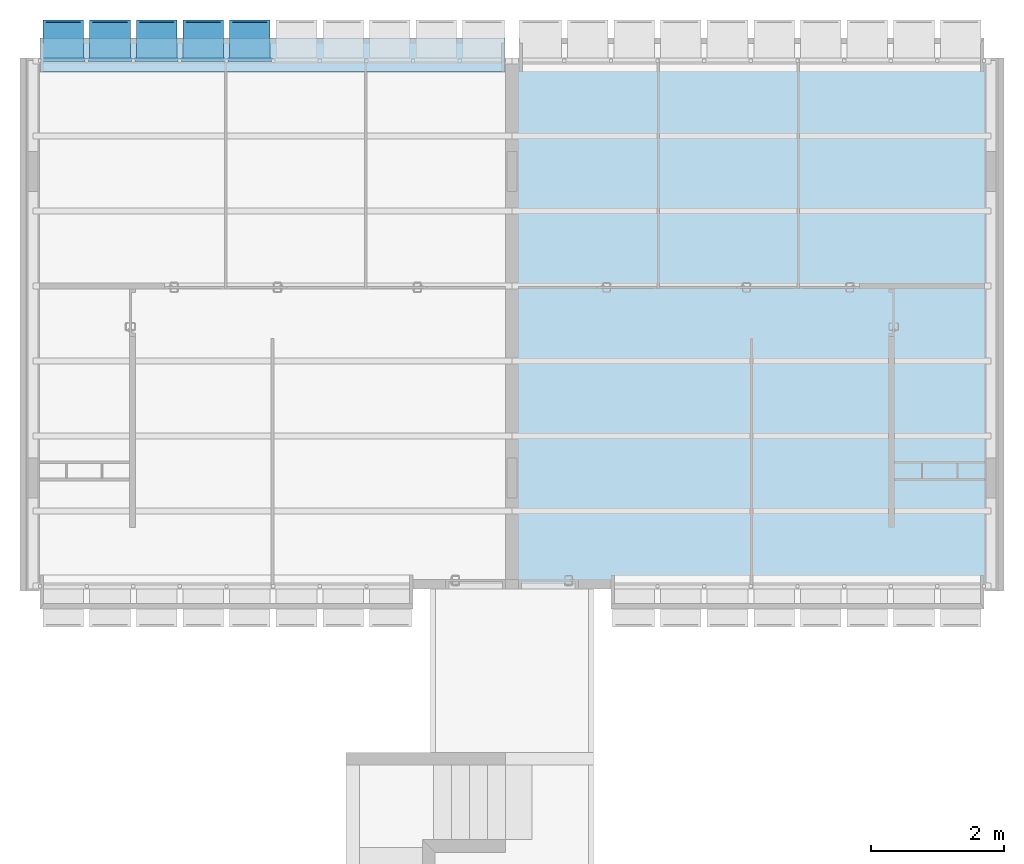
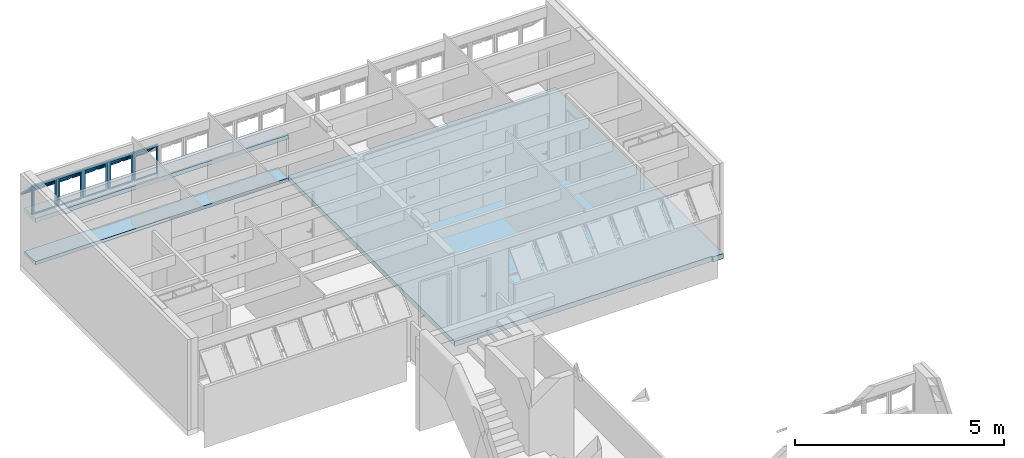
# One storey, part 14 of 41: 5 plates, 3 slabs, 1 element without a shape of its own.
"""IFC4 building model written with IfcOpenShell, lengths in millimetres."""

from ifc_helpers import new_model, entity, si_unit, converted_unit, derived_unit, direction, frame, origin_with_axes, place, context, subcontext, project, spatial, line, indexed_curve, outline, extrude, polygons, source, transform, mapped, material, layer, layer_set, layer_usage, constituent, constituent_set, type_object, element, aggregate, save


model = new_model("IFC4")

# Units and contexts
model_context = context("Model", 3, precision=0.01, world=origin_with_axes(), true_north=direction((0.0, 1.0)))
body_context = subcontext(model_context, "Body", "Model", "MODEL_VIEW")
ifc_project = project(units=[si_unit("LENGTHUNIT", "METRE", prefix="MILLI"), si_unit("AREAUNIT", "SQUARE_METRE"), si_unit("VOLUMEUNIT", "CUBIC_METRE"), converted_unit("PLANEANGLEUNIT", "DEGREE", entity("IfcPlaneAngleMeasure", 0.0174532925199), si_unit("PLANEANGLEUNIT", "RADIAN"), dimensions=[0, 0, 0, 0, 0, 0, 0]), converted_unit("TIMEUNIT", "Year", entity("IfcTimeMeasure", 31556926.0), si_unit("TIMEUNIT", "SECOND"), dimensions=[0, 0, 1, 0, 0, 0, 0]), si_unit("MASSUNIT", "GRAM", prefix="KILO"), si_unit("THERMODYNAMICTEMPERATUREUNIT", "DEGREE_CELSIUS"), si_unit("LUMINOUSINTENSITYUNIT", "LUMEN"), si_unit("ENERGYUNIT", "JOULE", prefix="MEGA"), derived_unit("THERMALCONDUCTANCEUNIT", [(si_unit("POWERUNIT", "WATT"), 1), (si_unit("LENGTHUNIT", "METRE"), -1), (si_unit("THERMODYNAMICTEMPERATUREUNIT", "KELVIN"), -1)]), derived_unit("SPECIFICHEATCAPACITYUNIT", [(si_unit("ENERGYUNIT", "JOULE"), 1), (si_unit("MASSUNIT", "GRAM", prefix="KILO"), -1), (si_unit("THERMODYNAMICTEMPERATUREUNIT", "KELVIN"), -1)]), derived_unit("MASSDENSITYUNIT", [(si_unit("MASSUNIT", "GRAM", prefix="KILO"), 1), (si_unit("VOLUMEUNIT", "CUBIC_METRE"), -1)])], contexts=[model_context])

# Site, building, storey
site_placement = place(None, origin_with_axes())
site = spatial("IfcSite", under=ifc_project, at=site_placement, Name="Local", CompositionType="ELEMENT")
building_placement = place(site_placement, origin_with_axes())
building = spatial("IfcBuilding", under=site, at=building_placement, Name="Construção", CompositionType="ELEMENT")
storey_placement = place(building_placement, frame((0.0, 0.0, 2650.0), z_axis=(0.0, 0.0, 1.0), x_axis=(1.0, 0.0, 0.0)))
storey = spatial("IfcBuildingStorey", under=building, at=storey_placement, Name="Segundo Pavimento", CompositionType="ELEMENT", Elevation=2650.0)

# Slabs
ifc_material_1 = material(Name="Concreto Armado Moldado in Loco - Estrutural")
ifc_layer_1 = layer(ifc_material_1, 150.0, ventilated="UNKNOWN", Name="Concreto Armado Moldado in Loco - Estrutural")
ifc_layer_set_1 = layer_set([ifc_layer_1], Name="Concreto Armado Moldado in Loco - Estrutural 150")
ifc_layer_usage_1 = layer_usage(ifc_layer_set_1, "AXIS3", "NEGATIVE", 150.0)
slab_type_1 = type_object("IfcSlabType", Name="Concreto Armado Moldado in Loco - Estrutural 150", PredefinedType="FLOOR")
slab_1_placement = place(storey_placement, frame((14770.0, 25860.0, 0.0), z_axis=(0.0, 0.0, 1.0), x_axis=(1.0, 0.0, 0.0)))
element("IfcSlab", 1, at=slab_1_placement, inside=storey, type_object=slab_type_1, material=ifc_layer_usage_1, Name="APTO8-LAJE-000", PredefinedType="FLOOR", context=body_context, shape_type="SweptSolid", body=[
    extrude(outline(indexed_curve([(0.0, 0.0), (-299.999978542, 0.0), (-7385.0, 0.0), (-7385.0, -7964.99999866), (-6160.00008404, -7964.99999866), (-5900.0, -7965.0), (-290.0, -7965.0), (-289.999999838, -8000.00000006), (0.0, -7999.99999872)], segments=[line(1, 2, 3, 4, 5, 6, 7, 8, 9, 1)])), frame((0.0, 0.0, -150.0), z_axis=(0.0, 0.0, 1.0), x_axis=(1.0, 0.0, 0.0)), (0.0, 0.0, 1.0), 150.0),
])
ifc_layer_2 = layer(ifc_material_1, 120.0, ventilated="UNKNOWN", Name="Concreto Armado Moldado in Loco - Estrutural")
ifc_layer_set_2 = layer_set([ifc_layer_2], Name="Concreto Armado Moldado in Loco - Estrutural 120")
ifc_layer_usage_2 = layer_usage(ifc_layer_set_2, "AXIS3", "NEGATIVE", 120.0)
slab_type_2 = type_object("IfcSlabType", Name="Concreto Armado Moldado in Loco - Estrutural 120", PredefinedType="FLOOR")
slab_2_placement = place(storey_placement, frame((300.0, 26160.0, 1355.0), z_axis=(0.0, 0.0, 1.0), x_axis=(1.0, 0.0, 0.0)))
element("IfcSlab", 2, at=slab_2_placement, inside=storey, type_object=slab_type_2, material=ifc_layer_usage_2, Name="APTO7-LAJE-002", PredefinedType="FLOOR", context=body_context, shape_type="SweptSolid", body=[
    extrude(outline(indexed_curve([(0.0, 0.0), (0.0, -510.0), (6980.0, -510.0), (6980.0, 0.0)], segments=[line(1, 2, 3, 4, 1)])), frame((0.0, 0.0, -120.0), z_axis=(0.0, 0.0, 1.0), x_axis=(1.0, 0.0, 0.0)), (0.0, 0.0, 1.0), 120.0),
])
ifc_layer_3 = layer(ifc_material_1, 100.0, ventilated="UNKNOWN", Name="Concreto Armado Moldado in Loco - Estrutural")
ifc_layer_set_3 = layer_set([ifc_layer_3], Name="Concreto Armado Moldado in Loco - Estrutural 100")
ifc_layer_usage_3 = layer_usage(ifc_layer_set_3, "AXIS3", "NEGATIVE", 100.0)
slab_type_3 = type_object("IfcSlabType", Name="Concreto Armado Moldado in Loco - Estrutural 100", PredefinedType="FLOOR")
slab_3_placement = place(storey_placement, frame((300.0, 26160.0, 100.0), z_axis=(0.0, 0.0, 1.0), x_axis=(1.0, 0.0, 0.0)))
element("IfcSlab", 3, at=slab_3_placement, inside=storey, type_object=slab_type_3, material=ifc_layer_usage_3, Name="APTO7-LAJE-001", PredefinedType="FLOOR", context=body_context, shape_type="SweptSolid", body=[
    extrude(outline(indexed_curve([(0.0, 0.0), (0.0, -510.0), (6980.0, -510.0), (6980.0, 0.0)], segments=[line(1, 2, 3, 4, 1)])), frame((0.0, 0.0, -100.0), z_axis=(0.0, 0.0, 1.0), x_axis=(1.0, 0.0, 0.0)), (0.0, 0.0, 1.0), 100.0),
])

# Window, plates
window_type = type_object("IfcWindowType", Name="Tipo de Parede Cortina", PartitioningType="NOTDEFINED", PredefinedType="NOTDEFINED")
window_placement = place(storey_placement, frame((6250.0, 25844.9790225, 1355.02054151), z_axis=(0.0, 0.0, 1.0), x_axis=(1.0, 0.0, 0.0)))
window = element("IfcWindow", 4, at=window_placement, inside=storey, type_object=window_type, Name="APTO7-JANELA-001", PredefinedType="NOTDEFINED")
ifc_material_2 = material(Name="Alumínio")
ifc_constituent_1 = constituent(ifc_material_2, Name="Alumínio")
ifc_material_3 = material(Name="Vidro")
ifc_constituent_2 = constituent(ifc_material_3, Name="Vidro")
ifc_constituent_set_1 = constituent_set(constituents=[ifc_constituent_1, ifc_constituent_2])
plate_type = type_object("IfcPlateType", Name="Painel Principal 690 x 845 x 20", PredefinedType="CURTAIN_PANEL")
shared_shape_1 = source(origin_with_axes(), body_context, "Body", "Tessellation", [
    polygons([(-25.0000036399, 0.0, -40.0), (-25.0000036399, 0.0, -35.0), (-674.999997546, 0.0, -35.0), (-674.999997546, 0.0, -40.0), (-70.0000036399, 45.0, -40.0), (-70.0000036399, 45.0, -35.0), (-629.999997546, 45.0, -35.0), (-629.999997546, 45.0, -40.0)], [[[1, 2, 3, 4]], [[5, 6, 2, 1]], [[2, 6, 7, 3]], [[4, 3, 7, 8]], [[1, 4, 8, 5]], [[8, 7, 6, 5]]], closed=True),
    polygons([(-674.999997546, 0.0, -40.0), (-674.999997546, 0.0, -35.0), (-674.999997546, 844.999891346, -35.0), (-674.999997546, 844.999891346, -40.0), (-629.999997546, 45.0, -40.0), (-629.999997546, 45.0, -35.0), (-629.999997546, 799.999891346, -35.0), (-629.999997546, 799.999891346, -40.0)], [[[1, 2, 3, 4]], [[5, 6, 2, 1]], [[2, 6, 7, 3]], [[4, 3, 7, 8]], [[1, 4, 8, 5]], [[8, 7, 6, 5]]], closed=True),
    polygons([(-25.0000036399, 844.999891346, -40.0), (-25.0000036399, 844.999891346, -35.0), (-70.0000036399, 799.999891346, -35.0), (-70.0000036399, 799.999891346, -40.0), (-674.999997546, 844.999891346, -40.0), (-674.999997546, 844.999891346, -35.0), (-629.999997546, 799.999891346, -35.0), (-629.999997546, 799.999891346, -40.0)], [[[1, 2, 3, 4]], [[5, 6, 2, 1]], [[2, 6, 7, 3]], [[4, 3, 7, 8]], [[1, 4, 8, 5]], [[8, 7, 6, 5]]], closed=True),
    polygons([(-25.0000036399, 0.0, -40.0), (-25.0000036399, 0.0, -35.0), (-70.0000036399, 45.0, -35.0), (-70.0000036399, 45.0, -40.0), (-25.0000036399, 844.999891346, -40.0), (-25.0000036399, 844.999891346, -35.0), (-70.0000036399, 799.999891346, -35.0), (-70.0000036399, 799.999891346, -40.0)], [[[1, 2, 3, 4]], [[5, 6, 2, 1]], [[2, 6, 7, 3]], [[4, 3, 7, 8]], [[1, 4, 8, 5]], [[8, 7, 6, 5]]], closed=True),
    polygons([(-25.0000036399, 0.0, -35.0), (-25.0000036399, 0.0, 15.0), (-674.999997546, 0.0, 15.0), (-674.999997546, 0.0, -35.0), (-45.0000036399, 20.0, -35.0), (-45.0000036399, 20.0, 15.0), (-654.999997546, 20.0, 15.0), (-654.999997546, 20.0, -35.0)], [[[1, 2, 3, 4]], [[5, 6, 2, 1]], [[2, 6, 7, 3]], [[4, 3, 7, 8]], [[1, 4, 8, 5]], [[8, 7, 6, 5]]], closed=True),
    polygons([(-674.999997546, 0.0, -35.0), (-674.999997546, 0.0, 15.0), (-674.999997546, 844.999891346, 15.0), (-674.999997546, 844.999891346, -35.0), (-654.999997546, 20.0, -35.0), (-654.999997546, 20.0, 15.0), (-654.999997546, 824.999891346, 15.0), (-654.999997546, 824.999891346, -35.0)], [[[1, 2, 3, 4]], [[5, 6, 2, 1]], [[2, 6, 7, 3]], [[4, 3, 7, 8]], [[1, 4, 8, 5]], [[8, 7, 6, 5]]], closed=True),
    polygons([(-25.0000036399, 844.999891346, -35.0), (-25.0000036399, 844.999891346, 15.0), (-45.0000036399, 824.999891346, 15.0), (-45.0000036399, 824.999891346, -35.0), (-674.999997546, 844.999891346, -35.0), (-674.999997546, 844.999891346, 15.0), (-654.999997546, 824.999891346, 15.0), (-654.999997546, 824.999891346, -35.0)], [[[1, 2, 3, 4]], [[5, 6, 2, 1]], [[2, 6, 7, 3]], [[4, 3, 7, 8]], [[1, 4, 8, 5]], [[8, 7, 6, 5]]], closed=True),
    polygons([(-25.0000036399, 0.0, -35.0), (-25.0000036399, 0.0, 15.0), (-45.0000036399, 20.0, 15.0), (-45.0000036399, 20.0, -35.0), (-25.0000036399, 844.999891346, -35.0), (-25.0000036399, 844.999891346, 15.0), (-45.0000036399, 824.999891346, 15.0), (-45.0000036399, 824.999891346, -35.0)], [[[1, 2, 3, 4]], [[5, 6, 2, 1]], [[2, 6, 7, 3]], [[4, 3, 7, 8]], [[1, 4, 8, 5]], [[8, 7, 6, 5]]], closed=True),
    polygons([(-694.999995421, 0.0, -10.0), (-694.999995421, 0.0, 10.0), (-694.999995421, 844.999891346, 10.0), (-694.999995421, 844.999891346, -10.0), (-674.999997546, 0.0, -10.0), (-674.999997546, 0.0, 10.0), (-674.999997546, 844.999891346, 10.0), (-674.999997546, 844.999891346, -10.0)], [[[1, 2, 3, 4]], [[5, 6, 2, 1]], [[2, 6, 7, 3]], [[4, 3, 7, 8]], [[1, 4, 8, 5]], [[8, 7, 6, 5]]], closed=True),
    polygons([(-5.00000576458, 844.999891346, -10.0), (-5.00000576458, 844.999891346, 10.0), (-5.00000576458, 0.0, 10.0), (-5.00000576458, 0.0, -10.0), (-25.0000036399, 844.999891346, -10.0), (-25.0000036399, 844.999891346, 10.0), (-25.0000036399, 0.0, 10.0), (-25.0000036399, 0.0, -10.0)], [[[1, 2, 3, 4]], [[5, 6, 2, 1]], [[2, 6, 7, 3]], [[4, 3, 7, 8]], [[1, 4, 8, 5]], [[8, 7, 6, 5]]], closed=True),
    polygons([(-90.0000036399, 252.243475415, 517.045737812), (-90.0000036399, 291.13434838, 555.936610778), (-90.0000036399, 796.715620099, 50.3553390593), (-90.0000036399, 757.824747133, 11.4644660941), (-45.0000036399, 220.423670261, 548.865542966), (-45.0000036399, 259.314543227, 587.756415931), (-45.0000036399, 828.535425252, 18.5355339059), (-45.0000036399, 789.644552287, -20.3553390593)], [[[1, 2, 3, 4]], [[5, 6, 2, 1]], [[2, 6, 7, 3]], [[4, 3, 7, 8]], [[1, 4, 8, 5]], [[8, 7, 6, 5]]], closed=True),
    polygons([(-654.999997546, 220.423670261, 548.865542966), (-654.999997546, 259.314543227, 587.756415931), (-654.999997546, 828.535425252, 18.5355339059), (-654.999997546, 789.644552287, -20.3553390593), (-609.999997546, 252.243475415, 517.045737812), (-609.999997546, 291.13434838, 555.936610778), (-609.999997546, 796.715620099, 50.3553390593), (-609.999997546, 757.824747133, 11.4644660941)], [[[1, 2, 3, 4]], [[5, 6, 2, 1]], [[2, 6, 7, 3]], [[4, 3, 7, 8]], [[1, 4, 8, 5]], [[8, 7, 6, 5]]], closed=True),
    polygons([(-654.999997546, 220.423670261, 548.865542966), (-654.999997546, 259.314543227, 587.756415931), (-609.999997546, 291.13434838, 555.936610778), (-609.999997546, 252.243475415, 517.045737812), (-45.0000036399, 220.423670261, 548.865542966), (-45.0000036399, 259.314543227, 587.756415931), (-90.0000036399, 291.13434838, 555.936610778), (-90.0000036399, 252.243475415, 517.045737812)], [[[1, 2, 3, 4]], [[5, 6, 2, 1]], [[2, 6, 7, 3]], [[4, 3, 7, 8]], [[1, 4, 8, 5]], [[8, 7, 6, 5]]], closed=True),
    polygons([(-45.0000036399, 789.644552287, -20.3553390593), (-45.0000036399, 828.535425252, 18.5355339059), (-90.0000036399, 796.715620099, 50.3553390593), (-90.0000036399, 757.824747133, 11.4644660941), (-654.999997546, 789.644552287, -20.3553390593), (-654.999997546, 828.535425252, 18.5355339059), (-609.999997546, 796.715620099, 50.3553390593), (-609.999997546, 757.824747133, 11.4644660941)], [[[1, 2, 3, 4]], [[5, 6, 2, 1]], [[2, 6, 7, 3]], [[4, 3, 7, 8]], [[1, 4, 8, 5]], [[8, 7, 6, 5]]], closed=True),
    polygons([(-90.0000036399, 272.749572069, 537.551834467), (-90.0000036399, 284.063280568, 548.865542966), (-609.999997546, 284.063280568, 548.865542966), (-609.999997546, 272.749572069, 537.551834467), (-90.0000036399, 778.330843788, 31.9705627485), (-90.0000036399, 789.644552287, 43.2842712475), (-609.999997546, 789.644552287, 43.2842712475), (-609.999997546, 778.330843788, 31.9705627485)], [[[1, 2, 3, 4]], [[5, 6, 2, 1]], [[2, 6, 7, 3]], [[4, 3, 7, 8]], [[1, 4, 8, 5]], [[8, 7, 6, 5]]], closed=True),
])
plate_1_placement = place(window_placement, frame((-3500.0, 0.0, 422.499945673), z_axis=(0.0, 0.0, 1.0), x_axis=(-1.0, 0.0, 0.0)))
plate_1 = element("IfcPlate", 5, at=plate_1_placement, type_object=plate_type, material=ifc_constituent_set_1, Name="APTO7-Painel-Prin-013", PredefinedType="CURTAIN_PANEL", context=body_context, shape_type="MappedRepresentation", body=[
    mapped(shared_shape_1, transform((350.0, 0.0, -422.499945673), x_axis=(1.0, 0.0, 0.0), y_axis=(0.0, 0.0, 1.0), z_axis=(0.0, -1.0, 0.0))),
])
ifc_constituent_3 = constituent(ifc_material_2, Name="Alumínio")
ifc_constituent_4 = constituent(ifc_material_3, Name="Vidro")
ifc_constituent_set_2 = constituent_set(constituents=[ifc_constituent_3, ifc_constituent_4])
shared_shape_2 = source(origin_with_axes(), body_context, "Body", "Tessellation", [
    polygons([(-25.0000036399, 0.0, -40.0), (-25.0000036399, 0.0, -35.0), (-674.999997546, 0.0, -35.0), (-674.999997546, 0.0, -40.0), (-70.0000036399, 45.0, -40.0), (-70.0000036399, 45.0, -35.0), (-629.999997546, 45.0, -35.0), (-629.999997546, 45.0, -40.0)], [[[1, 2, 3, 4]], [[5, 6, 2, 1]], [[2, 6, 7, 3]], [[4, 3, 7, 8]], [[1, 4, 8, 5]], [[8, 7, 6, 5]]], closed=True),
    polygons([(-674.999997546, 0.0, -40.0), (-674.999997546, 0.0, -35.0), (-674.999997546, 844.999891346, -35.0), (-674.999997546, 844.999891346, -40.0), (-629.999997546, 45.0, -40.0), (-629.999997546, 45.0, -35.0), (-629.999997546, 799.999891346, -35.0), (-629.999997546, 799.999891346, -40.0)], [[[1, 2, 3, 4]], [[5, 6, 2, 1]], [[2, 6, 7, 3]], [[4, 3, 7, 8]], [[1, 4, 8, 5]], [[8, 7, 6, 5]]], closed=True),
    polygons([(-25.0000036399, 844.999891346, -40.0), (-25.0000036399, 844.999891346, -35.0), (-70.0000036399, 799.999891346, -35.0), (-70.0000036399, 799.999891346, -40.0), (-674.999997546, 844.999891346, -40.0), (-674.999997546, 844.999891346, -35.0), (-629.999997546, 799.999891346, -35.0), (-629.999997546, 799.999891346, -40.0)], [[[1, 2, 3, 4]], [[5, 6, 2, 1]], [[2, 6, 7, 3]], [[4, 3, 7, 8]], [[1, 4, 8, 5]], [[8, 7, 6, 5]]], closed=True),
    polygons([(-25.0000036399, 0.0, -40.0), (-25.0000036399, 0.0, -35.0), (-70.0000036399, 45.0, -35.0), (-70.0000036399, 45.0, -40.0), (-25.0000036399, 844.999891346, -40.0), (-25.0000036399, 844.999891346, -35.0), (-70.0000036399, 799.999891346, -35.0), (-70.0000036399, 799.999891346, -40.0)], [[[1, 2, 3, 4]], [[5, 6, 2, 1]], [[2, 6, 7, 3]], [[4, 3, 7, 8]], [[1, 4, 8, 5]], [[8, 7, 6, 5]]], closed=True),
    polygons([(-25.0000036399, 0.0, -35.0), (-25.0000036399, 0.0, 15.0), (-674.999997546, 0.0, 15.0), (-674.999997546, 0.0, -35.0), (-45.0000036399, 20.0, -35.0), (-45.0000036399, 20.0, 15.0), (-654.999997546, 20.0, 15.0), (-654.999997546, 20.0, -35.0)], [[[1, 2, 3, 4]], [[5, 6, 2, 1]], [[2, 6, 7, 3]], [[4, 3, 7, 8]], [[1, 4, 8, 5]], [[8, 7, 6, 5]]], closed=True),
    polygons([(-674.999997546, 0.0, -35.0), (-674.999997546, 0.0, 15.0), (-674.999997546, 844.999891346, 15.0), (-674.999997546, 844.999891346, -35.0), (-654.999997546, 20.0, -35.0), (-654.999997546, 20.0, 15.0), (-654.999997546, 824.999891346, 15.0), (-654.999997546, 824.999891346, -35.0)], [[[1, 2, 3, 4]], [[5, 6, 2, 1]], [[2, 6, 7, 3]], [[4, 3, 7, 8]], [[1, 4, 8, 5]], [[8, 7, 6, 5]]], closed=True),
    polygons([(-25.0000036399, 844.999891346, -35.0), (-25.0000036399, 844.999891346, 15.0), (-45.0000036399, 824.999891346, 15.0), (-45.0000036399, 824.999891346, -35.0), (-674.999997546, 844.999891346, -35.0), (-674.999997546, 844.999891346, 15.0), (-654.999997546, 824.999891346, 15.0), (-654.999997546, 824.999891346, -35.0)], [[[1, 2, 3, 4]], [[5, 6, 2, 1]], [[2, 6, 7, 3]], [[4, 3, 7, 8]], [[1, 4, 8, 5]], [[8, 7, 6, 5]]], closed=True),
    polygons([(-25.0000036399, 0.0, -35.0), (-25.0000036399, 0.0, 15.0), (-45.0000036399, 20.0, 15.0), (-45.0000036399, 20.0, -35.0), (-25.0000036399, 844.999891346, -35.0), (-25.0000036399, 844.999891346, 15.0), (-45.0000036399, 824.999891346, 15.0), (-45.0000036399, 824.999891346, -35.0)], [[[1, 2, 3, 4]], [[5, 6, 2, 1]], [[2, 6, 7, 3]], [[4, 3, 7, 8]], [[1, 4, 8, 5]], [[8, 7, 6, 5]]], closed=True),
    polygons([(-694.999995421, 0.0, -10.0), (-694.999995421, 0.0, 10.0), (-694.999995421, 844.999891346, 10.0), (-694.999995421, 844.999891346, -10.0), (-674.999997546, 0.0, -10.0), (-674.999997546, 0.0, 10.0), (-674.999997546, 844.999891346, 10.0), (-674.999997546, 844.999891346, -10.0)], [[[1, 2, 3, 4]], [[5, 6, 2, 1]], [[2, 6, 7, 3]], [[4, 3, 7, 8]], [[1, 4, 8, 5]], [[8, 7, 6, 5]]], closed=True),
    polygons([(-5.00000576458, 844.999891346, -10.0), (-5.00000576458, 844.999891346, 10.0), (-5.00000576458, 0.0, 10.0), (-5.00000576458, 0.0, -10.0), (-25.0000036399, 844.999891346, -10.0), (-25.0000036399, 844.999891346, 10.0), (-25.0000036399, 0.0, 10.0), (-25.0000036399, 0.0, -10.0)], [[[1, 2, 3, 4]], [[5, 6, 2, 1]], [[2, 6, 7, 3]], [[4, 3, 7, 8]], [[1, 4, 8, 5]], [[8, 7, 6, 5]]], closed=True),
    polygons([(-90.0000036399, 252.243475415, 517.045737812), (-90.0000036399, 291.13434838, 555.936610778), (-90.0000036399, 796.715620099, 50.3553390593), (-90.0000036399, 757.824747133, 11.4644660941), (-45.0000036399, 220.423670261, 548.865542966), (-45.0000036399, 259.314543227, 587.756415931), (-45.0000036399, 828.535425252, 18.5355339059), (-45.0000036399, 789.644552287, -20.3553390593)], [[[1, 2, 3, 4]], [[5, 6, 2, 1]], [[2, 6, 7, 3]], [[4, 3, 7, 8]], [[1, 4, 8, 5]], [[8, 7, 6, 5]]], closed=True),
    polygons([(-654.999997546, 220.423670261, 548.865542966), (-654.999997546, 259.314543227, 587.756415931), (-654.999997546, 828.535425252, 18.5355339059), (-654.999997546, 789.644552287, -20.3553390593), (-609.999997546, 252.243475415, 517.045737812), (-609.999997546, 291.13434838, 555.936610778), (-609.999997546, 796.715620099, 50.3553390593), (-609.999997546, 757.824747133, 11.4644660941)], [[[1, 2, 3, 4]], [[5, 6, 2, 1]], [[2, 6, 7, 3]], [[4, 3, 7, 8]], [[1, 4, 8, 5]], [[8, 7, 6, 5]]], closed=True),
    polygons([(-654.999997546, 220.423670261, 548.865542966), (-654.999997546, 259.314543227, 587.756415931), (-609.999997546, 291.13434838, 555.936610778), (-609.999997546, 252.243475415, 517.045737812), (-45.0000036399, 220.423670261, 548.865542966), (-45.0000036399, 259.314543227, 587.756415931), (-90.0000036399, 291.13434838, 555.936610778), (-90.0000036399, 252.243475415, 517.045737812)], [[[1, 2, 3, 4]], [[5, 6, 2, 1]], [[2, 6, 7, 3]], [[4, 3, 7, 8]], [[1, 4, 8, 5]], [[8, 7, 6, 5]]], closed=True),
    polygons([(-45.0000036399, 789.644552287, -20.3553390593), (-45.0000036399, 828.535425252, 18.5355339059), (-90.0000036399, 796.715620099, 50.3553390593), (-90.0000036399, 757.824747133, 11.4644660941), (-654.999997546, 789.644552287, -20.3553390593), (-654.999997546, 828.535425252, 18.5355339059), (-609.999997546, 796.715620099, 50.3553390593), (-609.999997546, 757.824747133, 11.4644660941)], [[[1, 2, 3, 4]], [[5, 6, 2, 1]], [[2, 6, 7, 3]], [[4, 3, 7, 8]], [[1, 4, 8, 5]], [[8, 7, 6, 5]]], closed=True),
    polygons([(-90.0000036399, 272.749572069, 537.551834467), (-90.0000036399, 284.063280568, 548.865542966), (-609.999997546, 284.063280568, 548.865542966), (-609.999997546, 272.749572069, 537.551834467), (-90.0000036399, 778.330843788, 31.9705627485), (-90.0000036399, 789.644552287, 43.2842712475), (-609.999997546, 789.644552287, 43.2842712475), (-609.999997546, 778.330843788, 31.9705627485)], [[[1, 2, 3, 4]], [[5, 6, 2, 1]], [[2, 6, 7, 3]], [[4, 3, 7, 8]], [[1, 4, 8, 5]], [[8, 7, 6, 5]]], closed=True),
])
plate_2_placement = place(window_placement, frame((-5600.0, 0.0, 422.499945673), z_axis=(0.0, 0.0, 1.0), x_axis=(-1.0, 0.0, 0.0)))
plate_2 = element("IfcPlate", 6, at=plate_2_placement, type_object=plate_type, material=ifc_constituent_set_2, Name="APTO7-Painel-Prin-013", PredefinedType="CURTAIN_PANEL", context=body_context, shape_type="MappedRepresentation", body=[
    mapped(shared_shape_2, transform((350.0, 0.0, -422.499945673), x_axis=(1.0, 0.0, 0.0), y_axis=(0.0, 0.0, 1.0), z_axis=(0.0, -1.0, 0.0))),
])
ifc_constituent_5 = constituent(ifc_material_2, Name="Alumínio")
ifc_constituent_6 = constituent(ifc_material_3, Name="Vidro")
ifc_constituent_set_3 = constituent_set(constituents=[ifc_constituent_5, ifc_constituent_6])
plate_3_placement = place(window_placement, frame((-4900.0, 0.0, 422.499945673), z_axis=(0.0, 0.0, 1.0), x_axis=(-1.0, 0.0, 0.0)))
plate_3 = element("IfcPlate", 7, at=plate_3_placement, type_object=plate_type, material=ifc_constituent_set_3, Name="APTO7-Painel-Prin-013", PredefinedType="CURTAIN_PANEL", context=body_context, shape_type="MappedRepresentation", body=[
    mapped(shared_shape_2, transform((350.0, 0.0, -422.499945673), x_axis=(1.0, 0.0, 0.0), y_axis=(0.0, 0.0, 1.0), z_axis=(0.0, -1.0, 0.0))),
])
ifc_constituent_7 = constituent(ifc_material_2, Name="Alumínio")
ifc_constituent_8 = constituent(ifc_material_3, Name="Vidro")
ifc_constituent_set_4 = constituent_set(constituents=[ifc_constituent_7, ifc_constituent_8])
shared_shape_3 = source(origin_with_axes(), body_context, "Body", "Tessellation", [
    polygons([(-25.0000036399, 0.0, -40.0), (-25.0000036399, 0.0, -35.0), (-674.999997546, 0.0, -35.0), (-674.999997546, 0.0, -40.0), (-70.0000036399, 45.0, -40.0), (-70.0000036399, 45.0, -35.0), (-629.999997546, 45.0, -35.0), (-629.999997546, 45.0, -40.0)], [[[1, 2, 3, 4]], [[5, 6, 2, 1]], [[2, 6, 7, 3]], [[4, 3, 7, 8]], [[1, 4, 8, 5]], [[8, 7, 6, 5]]], closed=True),
    polygons([(-674.999997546, 0.0, -40.0), (-674.999997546, 0.0, -35.0), (-674.999997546, 844.999891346, -35.0), (-674.999997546, 844.999891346, -40.0), (-629.999997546, 45.0, -40.0), (-629.999997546, 45.0, -35.0), (-629.999997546, 799.999891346, -35.0), (-629.999997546, 799.999891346, -40.0)], [[[1, 2, 3, 4]], [[5, 6, 2, 1]], [[2, 6, 7, 3]], [[4, 3, 7, 8]], [[1, 4, 8, 5]], [[8, 7, 6, 5]]], closed=True),
    polygons([(-25.0000036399, 844.999891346, -40.0), (-25.0000036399, 844.999891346, -35.0), (-70.0000036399, 799.999891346, -35.0), (-70.0000036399, 799.999891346, -40.0), (-674.999997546, 844.999891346, -40.0), (-674.999997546, 844.999891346, -35.0), (-629.999997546, 799.999891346, -35.0), (-629.999997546, 799.999891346, -40.0)], [[[1, 2, 3, 4]], [[5, 6, 2, 1]], [[2, 6, 7, 3]], [[4, 3, 7, 8]], [[1, 4, 8, 5]], [[8, 7, 6, 5]]], closed=True),
    polygons([(-25.0000036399, 0.0, -40.0), (-25.0000036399, 0.0, -35.0), (-70.0000036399, 45.0, -35.0), (-70.0000036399, 45.0, -40.0), (-25.0000036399, 844.999891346, -40.0), (-25.0000036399, 844.999891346, -35.0), (-70.0000036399, 799.999891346, -35.0), (-70.0000036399, 799.999891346, -40.0)], [[[1, 2, 3, 4]], [[5, 6, 2, 1]], [[2, 6, 7, 3]], [[4, 3, 7, 8]], [[1, 4, 8, 5]], [[8, 7, 6, 5]]], closed=True),
    polygons([(-25.0000036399, 0.0, -35.0), (-25.0000036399, 0.0, 15.0), (-674.999997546, 0.0, 15.0), (-674.999997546, 0.0, -35.0), (-45.0000036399, 20.0, -35.0), (-45.0000036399, 20.0, 15.0), (-654.999997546, 20.0, 15.0), (-654.999997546, 20.0, -35.0)], [[[1, 2, 3, 4]], [[5, 6, 2, 1]], [[2, 6, 7, 3]], [[4, 3, 7, 8]], [[1, 4, 8, 5]], [[8, 7, 6, 5]]], closed=True),
    polygons([(-674.999997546, 0.0, -35.0), (-674.999997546, 0.0, 15.0), (-674.999997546, 844.999891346, 15.0), (-674.999997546, 844.999891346, -35.0), (-654.999997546, 20.0, -35.0), (-654.999997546, 20.0, 15.0), (-654.999997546, 824.999891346, 15.0), (-654.999997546, 824.999891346, -35.0)], [[[1, 2, 3, 4]], [[5, 6, 2, 1]], [[2, 6, 7, 3]], [[4, 3, 7, 8]], [[1, 4, 8, 5]], [[8, 7, 6, 5]]], closed=True),
    polygons([(-25.0000036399, 844.999891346, -35.0), (-25.0000036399, 844.999891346, 15.0), (-45.0000036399, 824.999891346, 15.0), (-45.0000036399, 824.999891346, -35.0), (-674.999997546, 844.999891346, -35.0), (-674.999997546, 844.999891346, 15.0), (-654.999997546, 824.999891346, 15.0), (-654.999997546, 824.999891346, -35.0)], [[[1, 2, 3, 4]], [[5, 6, 2, 1]], [[2, 6, 7, 3]], [[4, 3, 7, 8]], [[1, 4, 8, 5]], [[8, 7, 6, 5]]], closed=True),
    polygons([(-25.0000036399, 0.0, -35.0), (-25.0000036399, 0.0, 15.0), (-45.0000036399, 20.0, 15.0), (-45.0000036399, 20.0, -35.0), (-25.0000036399, 844.999891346, -35.0), (-25.0000036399, 844.999891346, 15.0), (-45.0000036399, 824.999891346, 15.0), (-45.0000036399, 824.999891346, -35.0)], [[[1, 2, 3, 4]], [[5, 6, 2, 1]], [[2, 6, 7, 3]], [[4, 3, 7, 8]], [[1, 4, 8, 5]], [[8, 7, 6, 5]]], closed=True),
    polygons([(-694.999995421, 0.0, -10.0), (-694.999995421, 0.0, 10.0), (-694.999995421, 844.999891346, 10.0), (-694.999995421, 844.999891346, -10.0), (-674.999997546, 0.0, -10.0), (-674.999997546, 0.0, 10.0), (-674.999997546, 844.999891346, 10.0), (-674.999997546, 844.999891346, -10.0)], [[[1, 2, 3, 4]], [[5, 6, 2, 1]], [[2, 6, 7, 3]], [[4, 3, 7, 8]], [[1, 4, 8, 5]], [[8, 7, 6, 5]]], closed=True),
    polygons([(-5.00000576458, 844.999891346, -10.0), (-5.00000576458, 844.999891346, 10.0), (-5.00000576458, 0.0, 10.0), (-5.00000576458, 0.0, -10.0), (-25.0000036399, 844.999891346, -10.0), (-25.0000036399, 844.999891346, 10.0), (-25.0000036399, 0.0, 10.0), (-25.0000036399, 0.0, -10.0)], [[[1, 2, 3, 4]], [[5, 6, 2, 1]], [[2, 6, 7, 3]], [[4, 3, 7, 8]], [[1, 4, 8, 5]], [[8, 7, 6, 5]]], closed=True),
    polygons([(-90.0000036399, 252.243475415, 517.045737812), (-90.0000036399, 291.13434838, 555.936610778), (-90.0000036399, 796.715620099, 50.3553390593), (-90.0000036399, 757.824747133, 11.4644660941), (-45.0000036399, 220.423670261, 548.865542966), (-45.0000036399, 259.314543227, 587.756415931), (-45.0000036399, 828.535425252, 18.5355339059), (-45.0000036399, 789.644552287, -20.3553390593)], [[[1, 2, 3, 4]], [[5, 6, 2, 1]], [[2, 6, 7, 3]], [[4, 3, 7, 8]], [[1, 4, 8, 5]], [[8, 7, 6, 5]]], closed=True),
    polygons([(-654.999997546, 220.423670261, 548.865542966), (-654.999997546, 259.314543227, 587.756415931), (-654.999997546, 828.535425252, 18.5355339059), (-654.999997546, 789.644552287, -20.3553390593), (-609.999997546, 252.243475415, 517.045737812), (-609.999997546, 291.13434838, 555.936610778), (-609.999997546, 796.715620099, 50.3553390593), (-609.999997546, 757.824747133, 11.4644660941)], [[[1, 2, 3, 4]], [[5, 6, 2, 1]], [[2, 6, 7, 3]], [[4, 3, 7, 8]], [[1, 4, 8, 5]], [[8, 7, 6, 5]]], closed=True),
    polygons([(-654.999997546, 220.423670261, 548.865542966), (-654.999997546, 259.314543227, 587.756415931), (-609.999997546, 291.13434838, 555.936610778), (-609.999997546, 252.243475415, 517.045737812), (-45.0000036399, 220.423670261, 548.865542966), (-45.0000036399, 259.314543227, 587.756415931), (-90.0000036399, 291.13434838, 555.936610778), (-90.0000036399, 252.243475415, 517.045737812)], [[[1, 2, 3, 4]], [[5, 6, 2, 1]], [[2, 6, 7, 3]], [[4, 3, 7, 8]], [[1, 4, 8, 5]], [[8, 7, 6, 5]]], closed=True),
    polygons([(-45.0000036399, 789.644552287, -20.3553390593), (-45.0000036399, 828.535425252, 18.5355339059), (-90.0000036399, 796.715620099, 50.3553390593), (-90.0000036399, 757.824747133, 11.4644660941), (-654.999997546, 789.644552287, -20.3553390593), (-654.999997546, 828.535425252, 18.5355339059), (-609.999997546, 796.715620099, 50.3553390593), (-609.999997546, 757.824747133, 11.4644660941)], [[[1, 2, 3, 4]], [[5, 6, 2, 1]], [[2, 6, 7, 3]], [[4, 3, 7, 8]], [[1, 4, 8, 5]], [[8, 7, 6, 5]]], closed=True),
    polygons([(-90.0000036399, 272.749572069, 537.551834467), (-90.0000036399, 284.063280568, 548.865542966), (-609.999997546, 284.063280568, 548.865542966), (-609.999997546, 272.749572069, 537.551834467), (-90.0000036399, 778.330843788, 31.9705627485), (-90.0000036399, 789.644552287, 43.2842712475), (-609.999997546, 789.644552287, 43.2842712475), (-609.999997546, 778.330843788, 31.9705627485)], [[[1, 2, 3, 4]], [[5, 6, 2, 1]], [[2, 6, 7, 3]], [[4, 3, 7, 8]], [[1, 4, 8, 5]], [[8, 7, 6, 5]]], closed=True),
])
plate_4_placement = place(window_placement, frame((-2800.0, 0.0, 422.499945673), z_axis=(0.0, 0.0, 1.0), x_axis=(-1.0, 0.0, 0.0)))
plate_4 = element("IfcPlate", 8, at=plate_4_placement, type_object=plate_type, material=ifc_constituent_set_4, Name="APTO7-Painel-Prin-013", PredefinedType="CURTAIN_PANEL", context=body_context, shape_type="MappedRepresentation", body=[
    mapped(shared_shape_3, transform((350.0, 0.0, -422.499945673), x_axis=(1.0, 0.0, 0.0), y_axis=(0.0, 0.0, 1.0), z_axis=(0.0, -1.0, 0.0))),
])
ifc_constituent_9 = constituent(ifc_material_2, Name="Alumínio")
ifc_constituent_10 = constituent(ifc_material_3, Name="Vidro")
ifc_constituent_set_5 = constituent_set(constituents=[ifc_constituent_9, ifc_constituent_10])
plate_5_placement = place(window_placement, frame((-4200.0, 0.0, 422.499945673), z_axis=(0.0, 0.0, 1.0), x_axis=(-1.0, 0.0, 0.0)))
plate_5 = element("IfcPlate", 9, at=plate_5_placement, type_object=plate_type, material=ifc_constituent_set_5, Name="APTO7-Painel-Prin-013", PredefinedType="CURTAIN_PANEL", context=body_context, shape_type="MappedRepresentation", body=[
    mapped(shared_shape_3, transform((350.0, 0.0, -422.499945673), x_axis=(1.0, 0.0, 0.0), y_axis=(0.0, 0.0, 1.0), z_axis=(0.0, -1.0, 0.0))),
])
aggregate(window, [plate_2, plate_3, plate_4, plate_5, plate_1])

save(model, "model.ifc")
